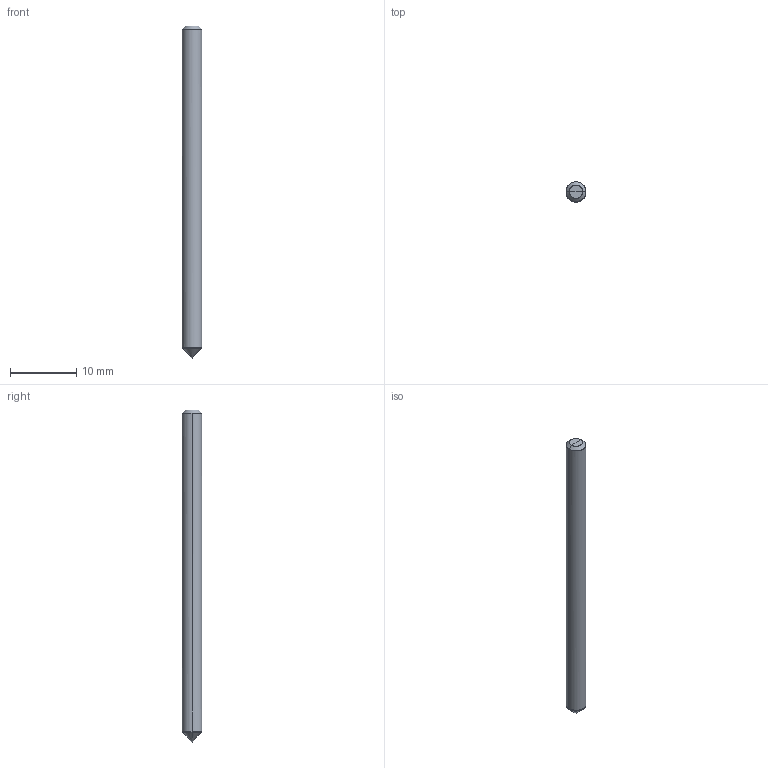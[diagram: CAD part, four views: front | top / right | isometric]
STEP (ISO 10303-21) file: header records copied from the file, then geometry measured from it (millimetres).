
FILE_DESCRIPTION(/* description */ (''),/* implementation_level */ '2;1');
FILE_NAME(/*name*/ '4071-3F-90',/*time_stamp*/'2021-6-30T9:22:8',/*author*/ ('ISBE GmbH'),/*organization*/ ('ISBE GmbH'),/*preprocessor_version*/ 'STEP IO v1.0',/*originating_system*/ '',/*authorisation*/ '');
FILE_SCHEMA (('AUTOMOTIVE_DESIGN'));
Length unit declared in the file: millimetre
Products named in the file (1): Document
Bounding box: 3 x 3 x 50 mm (x, y, z)
Surface area: 485.9 mm2 (no closed solid volume)
Topology: 0 solids, 14 shells, 14 faces, 60 edges, 56 vertices
Faces by surface type: bspline 14
Entity records: 531 total; most frequent: CARTESIAN_POINT 258, VERTEX_POINT 48, EDGE_CURVE 48, ORIENTED_EDGE 48, DIRECTION 16, EDGE_LOOP 14, FACE_OUTER_BOUND 14, ADVANCED_FACE 14
